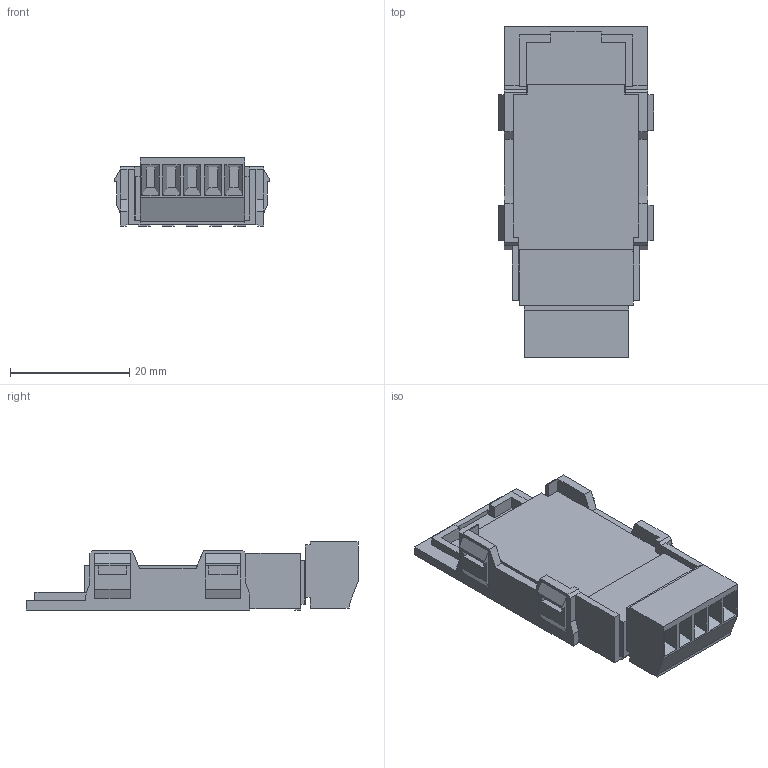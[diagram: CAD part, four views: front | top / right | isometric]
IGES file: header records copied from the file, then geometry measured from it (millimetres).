
Start section: SolidWorks IGES file using analytic representation for surfaces
Global section: file name: C:\catalog\afpg803\afpg803.IGS; native system: SolidWorks 2010; preprocessor: SolidWorks 2010; author: ek1676; date: 130717.154205; units: millimetre
Bounding box: 26 x 55.6 x 11.4 mm (x, y, z)
Surface area: 5234.9 mm2 (no closed solid volume)
Topology: 0 solids, 0 shells, 338 faces, 2236 edges, 2236 vertices
Faces by surface type: bspline 308, revolution 30
